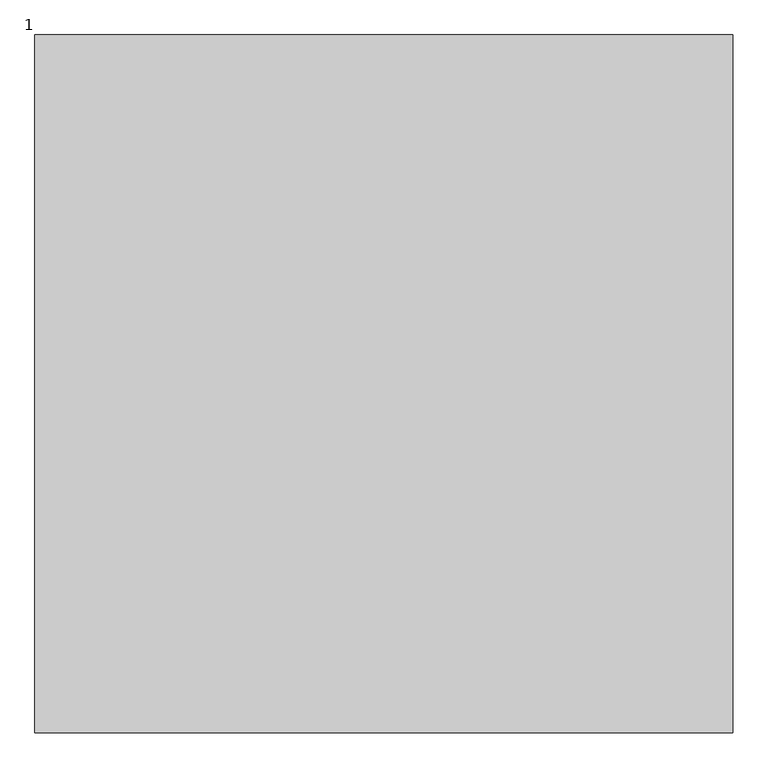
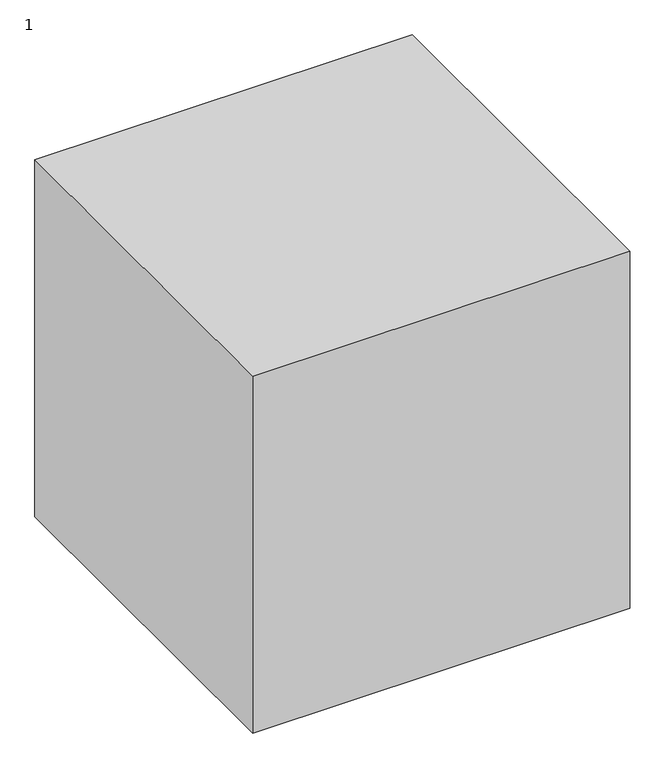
"""IFC4 building model written with IfcOpenShell, lengths in millimetres: proxy geometry, 12221111112 : 1."""

from ifc_helpers import new_model, si_unit, origin, origin_with_axes, place, context, project, spatial, polyline, outline, extrude, source, transform, mapped, element, save


def proxy_1_89ec94bb(model_context):
    return source(origin(), model_context, "Body", "SweptSolid", [
        extrude(outline(polyline([(21692.0243292, 7335.2294472), (21692.0243292, 6335.2294472), (20692.0243292, 6335.2294472), (20692.0243292, 7335.2294472), (21692.0243292, 7335.2294472)])), origin_with_axes(), (0.0, 0.0, 1.0), 1000.0),
    ])


if __name__ == "__main__":
    model = new_model("IFC4")
    model_context = context("Model", 3, world=origin())
    ifc_project = project(units=[si_unit("LENGTHUNIT", "METRE", prefix="MILLI")], contexts=[model_context])
    site = spatial("IfcSite", under=ifc_project)
    building = spatial("IfcBuilding", under=site)
    placement = place(None, origin())
    proxy_1_shape = proxy_1_89ec94bb(model_context)
    element("IfcBuildingElementProxy", 1, Name="12221111112 : 1", ObjectType="12221111112 : 1", at=placement, inside=building, context=model_context, shape_type="MappedRepresentation", body=[
        mapped(proxy_1_shape, transform((0.0, 0.0, 0.0), x_axis=(1.0, 0.0, 0.0), y_axis=(0.0, 1.0, 0.0), z_axis=(0.0, 0.0, 1.0))),
    ])
    save(model, "model.ifc")
